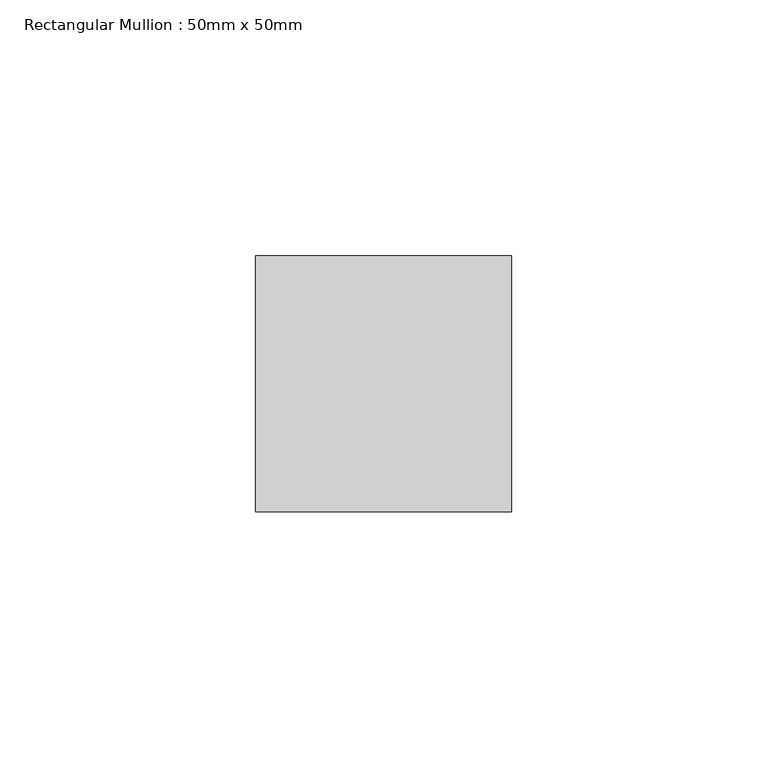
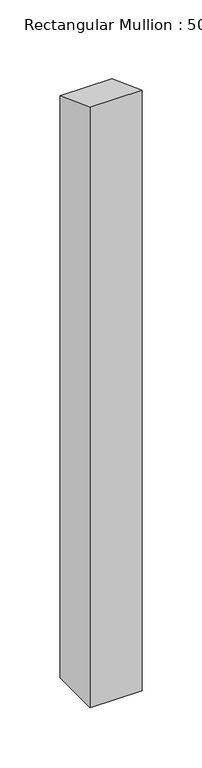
"""IFC4 building model written with IfcOpenShell, lengths in millimetres: member geometry, Rectangular Mullion : 50mm x 50mm."""

import ifcopenshell
import ifcopenshell.guid

model = None  # the IFC model being written
_history = None  # IfcOwnerHistory: only IFC2X3 demands one
_inside = {}  # id of a spatial element -> (the spatial element, [elements in it])
_under = {}  # id of a project, library or spatial element -> (it, [spatial elements below it])
_declared = {}  # id of a project -> (the project, [libraries it declares])
_typed = {}  # id of a type object -> (the type object, [elements of that type])
_made_of = {}  # id of a material, layer set ... -> (it, [elements and type objects made of it])


def new_model(schema):
    """Start an empty IFC model of exactly this schema.

    Asked for "IFC4X3", IfcOpenShell would pick the latest addendum, in which some entities
    have other attributes; the version numbers below select the first issue.
    IFC2X3 requires an IfcOwnerHistory on every rooted entity: one is made here for all.
    """
    global model, _history
    if schema == "IFC4X3":
        model = ifcopenshell.file(schema_version=(4, 3, 0, 0))
    else:
        model = ifcopenshell.file(schema=schema)
    _inside.clear()
    _under.clear()
    _declared.clear()
    _typed.clear()
    _made_of.clear()
    _history = None
    if model.schema == "IFC2X3":
        org = make("IfcOrganization", Name="unknown")
        user = make(
            "IfcPersonAndOrganization",
            ThePerson=make("IfcPerson", FamilyName="unknown"),
            TheOrganization=org,
        )
        app = make(
            "IfcApplication",
            ApplicationDeveloper=org,
            Version="unknown",
            ApplicationFullName="unknown",
            ApplicationIdentifier="unknown",
        )
        _history = make(
            "IfcOwnerHistory",
            OwningUser=user,
            OwningApplication=app,
            ChangeAction="ADDED",
            CreationDate=0,
        )
    return model


def make(cls, **values):
    """One entity of the class cls with the attributes given. An attribute that is None is left unset."""
    return model.create_entity(
        cls, **{name: value for name, value in values.items() if value is not None}
    )


def rooted(cls, **values):
    """An entity with a GlobalId (a new one), such as an element, a storey or a relation."""
    return make(cls, GlobalId=ifcopenshell.guid.new(), OwnerHistory=_history, **values)


def si_unit(unit_type, name, prefix=None):
    """IfcSIUnit, for example si_unit("LENGTHUNIT", "METRE", prefix="MILLI")."""
    return make("IfcSIUnit", UnitType=unit_type, Prefix=prefix, Name=name)


def assignment(units):
    """IfcUnitAssignment: the units of a project."""
    return None if units is None else make("IfcUnitAssignment", Units=units)


def point(xyz):
    """IfcCartesianPoint."""
    return None if xyz is None else make("IfcCartesianPoint", Coordinates=xyz)


def direction(xyz):
    """IfcDirection."""
    return None if xyz is None else make("IfcDirection", DirectionRatios=xyz)


def frame(location, z_axis=None, x_axis=None):
    """IfcAxis2Placement3D, a coordinate frame: its origin and axes. An axis left out is left unset."""
    return make(
        "IfcAxis2Placement3D",
        Location=point(location),
        Axis=direction(z_axis),
        RefDirection=direction(x_axis),
    )


def origin():
    """The frame at (0, 0, 0) with its axes left unset."""
    return frame((0.0, 0.0, 0.0))


def place(relative_to, where):
    """IfcLocalPlacement: puts the frame where relative to a parent placement (None: the world)."""
    return make(
        "IfcLocalPlacement", PlacementRelTo=relative_to, RelativePlacement=where
    )


def context(
    kind, dimensions, precision=None, world=None, true_north=None, identifier=None
):
    """IfcGeometricRepresentationContext, for example the 3D "Model" context."""
    return make(
        "IfcGeometricRepresentationContext",
        ContextIdentifier=identifier,
        ContextType=kind,
        CoordinateSpaceDimension=dimensions,
        Precision=precision,
        WorldCoordinateSystem=world,
        TrueNorth=true_north,
    )


def project(units=None, contexts=None):
    """IfcProject with its units and contexts."""
    return rooted(
        "IfcProject",
        Name="project",
        RepresentationContexts=contexts,
        UnitsInContext=assignment(units),
    )


def spatial(cls, under=None, at=None, **own):
    """A site, building, storey or space (cls), placed at a placement, below another one or the project."""
    s = rooted(cls, ObjectPlacement=at, **own)
    if under is not None:
        _under.setdefault(under.id(), (under, []))[1].append(s)
    return s


def polyline(points):
    """IfcPolyline through the points."""
    return make("IfcPolyline", Points=[point(p) for p in points])


def outline(outer, holes=None, kind="AREA"):
    """IfcArbitraryClosedProfileDef: a profile drawn as a closed curve; with holes, ...WithVoids."""
    if holes is None:
        return make("IfcArbitraryClosedProfileDef", ProfileType=kind, OuterCurve=outer)
    return make(
        "IfcArbitraryProfileDefWithVoids",
        ProfileType=kind,
        OuterCurve=outer,
        InnerCurves=holes,
    )


def extrude(swept, where, along, depth):
    """IfcExtrudedAreaSolid: the profile swept, set in the frame where, extruded along a direction by depth."""
    return make(
        "IfcExtrudedAreaSolid",
        SweptArea=swept,
        Position=where,
        ExtrudedDirection=direction(along),
        Depth=depth,
    )


def shape(context_of_items, identifier, shape_type, items):
    """IfcShapeRepresentation: the items that make up one representation, for example the "Body"."""
    return make(
        "IfcShapeRepresentation",
        ContextOfItems=context_of_items,
        RepresentationIdentifier=identifier,
        RepresentationType=shape_type,
        Items=items,
    )


def source(mapping_origin, context_of_items, identifier, shape_type, items):
    """IfcRepresentationMap: a shape defined once, which mapped items show again and again."""
    return make(
        "IfcRepresentationMap",
        MappingOrigin=mapping_origin,
        MappedRepresentation=shape(context_of_items, identifier, shape_type, items),
    )


def transform(
    local_origin,
    x_axis=None,
    y_axis=None,
    z_axis=None,
    scale=None,
    scale2=None,
    scale3=None,
    uniform=True,
):
    """IfcCartesianTransformationOperator3D, or its non-uniform kind. x_axis, y_axis, z_axis: its Axis1, 2, 3."""
    if uniform:
        return make(
            "IfcCartesianTransformationOperator3D",
            Axis1=direction(x_axis),
            Axis2=direction(y_axis),
            LocalOrigin=point(local_origin),
            Scale=scale,
            Axis3=direction(z_axis),
        )
    return make(
        "IfcCartesianTransformationOperator3DnonUniform",
        Axis1=direction(x_axis),
        Axis2=direction(y_axis),
        LocalOrigin=point(local_origin),
        Scale=scale,
        Axis3=direction(z_axis),
        Scale2=scale2,
        Scale3=scale3,
    )


def mapped(mapping_source, mapping_target):
    """IfcMappedItem: shows the shape of a source again, moved by a transform."""
    return make(
        "IfcMappedItem", MappingSource=mapping_source, MappingTarget=mapping_target
    )


def made_of(thing, what):
    """Note that an element or type object is made of a material, layer set ...; save() writes the relation."""
    if what is not None:
        _made_of.setdefault(what.id(), (what, []))[1].append(thing)
    return thing


def element(
    cls,
    number,
    at=None,
    inside=None,
    cuts=None,
    type_object=None,
    material=None,
    context=None,
    identifier="Body",
    shape_type=None,
    held_by="IfcProductDefinitionShape",
    body=None,
    shapes=None,
    **own,
):
    """One element of the class cls, such as IfcWall. Its Tag is "e" and its number.

    at: its placement. inside: the storey or other place that contains it. cuts: it is an
    opening in that element (IfcRelVoidsElement). A single representation is given by context,
    identifier, shape_type and body (its items); several are given by shapes. held_by: the class
    of the entity that holds the representations. save() writes the other relations.
    """
    e = rooted(cls, Tag="e%d" % number, ObjectPlacement=at, **own)
    if body is not None:
        shapes = [shape(context, identifier, shape_type, body)]
    if shapes is not None:
        e.Representation = make(held_by, Representations=shapes)
    if inside is not None:
        _inside.setdefault(inside.id(), (inside, []))[1].append(e)
    if cuts is not None:
        rooted(
            "IfcRelVoidsElement", RelatingBuildingElement=cuts, RelatedOpeningElement=e
        )
    if type_object is not None:
        _typed.setdefault(type_object.id(), (type_object, []))[1].append(e)
    return made_of(e, material)


def aggregate(whole, parts):
    """IfcRelAggregates: a whole, such as a stair, and the parts it consists of."""
    return rooted("IfcRelAggregates", RelatingObject=whole, RelatedObjects=parts)


def save(model, path):
    """Write the relations noted so far, then the file.

    IfcRelAggregates (storeys below a building ...), IfcRelContainedInSpatialStructure (elements
    in a storey), IfcRelDefinesByType, IfcRelAssociatesMaterial and IfcRelDeclares: one each for
    every whole, place, type object, material and project.
    """
    for whole, parts in _under.values():
        aggregate(whole, parts)
    for where, things in _inside.values():
        rooted(
            "IfcRelContainedInSpatialStructure",
            RelatedElements=things,
            RelatingStructure=where,
        )
    for kind, things in _typed.values():
        rooted("IfcRelDefinesByType", RelatedObjects=things, RelatingType=kind)
    for what, things in _made_of.values():
        rooted("IfcRelAssociatesMaterial", RelatedObjects=things, RelatingMaterial=what)
    for by, libraries in _declared.values():
        rooted("IfcRelDeclares", RelatingContext=by, RelatedDefinitions=libraries)
    model.write(path)


def rectangular_mullion_50mm_x_50mm_fa73b861(model_context):
    return source(origin(), model_context, "Body", "SweptSolid", [
        extrude(outline(polyline([(-25.0, 9.3435582), (25.0, -9.3435582), (25.0, -600.0), (-25.0, -600.0), (-25.0, 9.3435582)])), frame((-50.0, 0.0, 0.0), z_axis=(1.0, 0.0, 0.0), x_axis=(0.0, 1.0, 0.0)), (0.0, 0.0, 1.0), 50.0),
    ])


if __name__ == "__main__":
    model = new_model("IFC4")
    model_context = context("Model", 3, world=origin())
    ifc_project = project(units=[si_unit("LENGTHUNIT", "METRE", prefix="MILLI")], contexts=[model_context])
    site = spatial("IfcSite", under=ifc_project)
    building = spatial("IfcBuilding", under=site)
    placement = place(None, origin())
    rectangular_mullion_50mm_x_50mm_shape = rectangular_mullion_50mm_x_50mm_fa73b861(model_context)
    element("IfcMember", 1, ObjectType="Rectangular Mullion : 50mm x 50mm", at=placement, inside=building, context=model_context, shape_type="MappedRepresentation", body=[
        mapped(rectangular_mullion_50mm_x_50mm_shape, transform((0.0, 0.0, 0.0), x_axis=(1.0, 0.0, 0.0), y_axis=(0.0, 1.0, 0.0), z_axis=(0.0, 0.0, 1.0))),
    ])
    save(model, "model.ifc")
